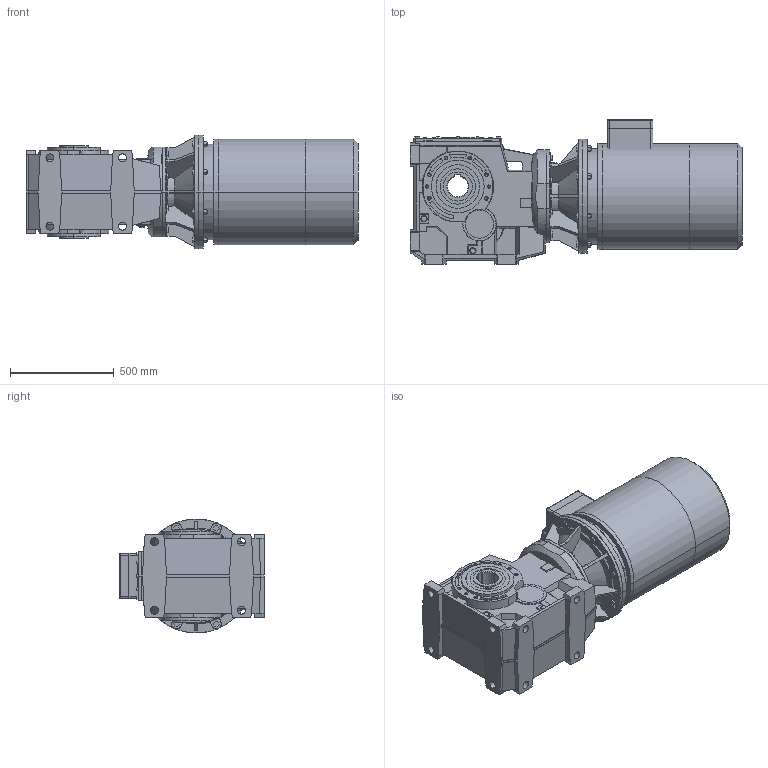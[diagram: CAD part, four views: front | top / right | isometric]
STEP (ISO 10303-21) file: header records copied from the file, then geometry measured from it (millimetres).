
FILE_DESCRIPTION( ( '' ), '1' );
FILE_NAME( '//expscmdclustefs.cadenas.external/client_exchange/iodir/jobs/output/wkb50801970_no0/STEP/B163UC8_89250_B5100000000T2501_2_03.stp', '2012-11-06T01:41:09', ( '' ), ( '' ), ' ', ' ', ' ' );
FILE_SCHEMA( ( 'CONFIG_CONTROL_DESIGN' ) );
Length unit declared in the file: millimetre
Products named in the file (7): 1; 2; 3; 4; 5; 6; 7
Bounding box: 1602 x 698 x 550 mm (x, y, z)
Volume: 304879334 mm3; surface area: 6457454.1 mm2
Topology: 7 solids, 7 shells, 1203 faces, 3098 edges, 2004 vertices
Faces by surface type: plane 753, cylinder 264, cone 183, torus 3
Entity records: 36557 total; most frequent: CARTESIAN_POINT 6956, ORIENTED_EDGE 6132, DIRECTION 6069, EDGE_CURVE 3066, AXIS2_PLACEMENT_3D 2037, VERTEX_POINT 2004, LINE 1995, VECTOR 1995
